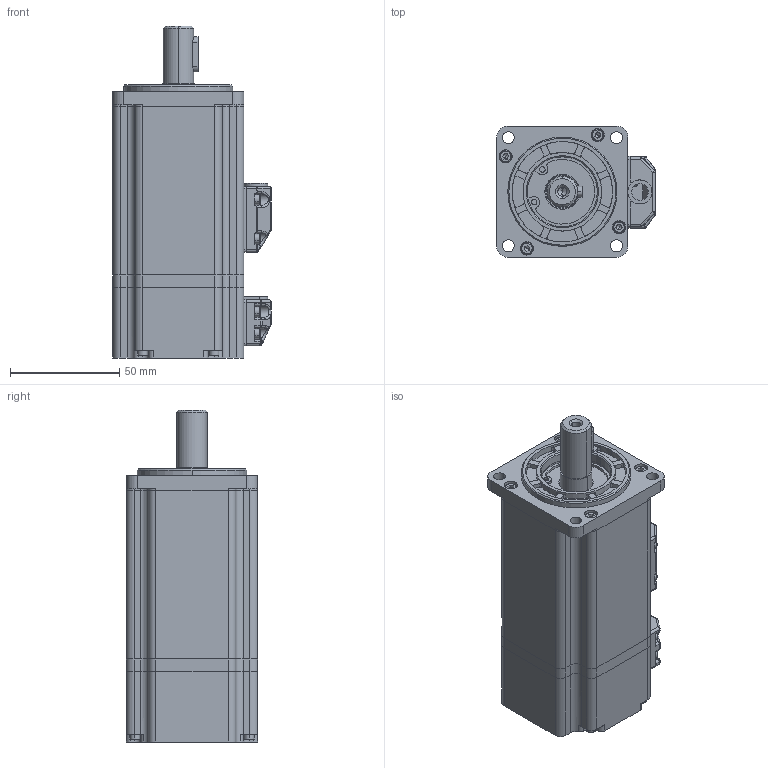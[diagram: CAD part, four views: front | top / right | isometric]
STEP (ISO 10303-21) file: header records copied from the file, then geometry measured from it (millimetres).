
FILE_DESCRIPTION (( 'STEP AP203' ), '1' );
FILE_NAME ('淕儂蚾饜.STEP', '2021-03-12T01:14:06', ( 'admin' ), ( '' ), 'SwSTEP 2.0', 'SolidWorks 2016', '' );
FILE_SCHEMA (( 'CONFIG_CONTROL_DESIGN' ));
Length unit declared in the file: millimetre
Products named in the file (1): 淕儂蚾饜
Bounding box: 72.5 x 60 x 152 mm (x, y, z)
Volume: 166182.4 mm3; surface area: 108326.5 mm2
Topology: 31 solids, 31 shells, 1626 faces, 4341 edges, 2718 vertices
Faces by surface type: cylinder 686, plane 602, cone 150, torus 94, sphere 70, bspline 24
Entity records: 53717 total; most frequent: CARTESIAN_POINT 13222, DIRECTION 8832, ORIENTED_EDGE 8322, EDGE_CURVE 4161, AXIS2_PLACEMENT_3D 3444, VERTEX_POINT 2654, LINE 1944, VECTOR 1944
